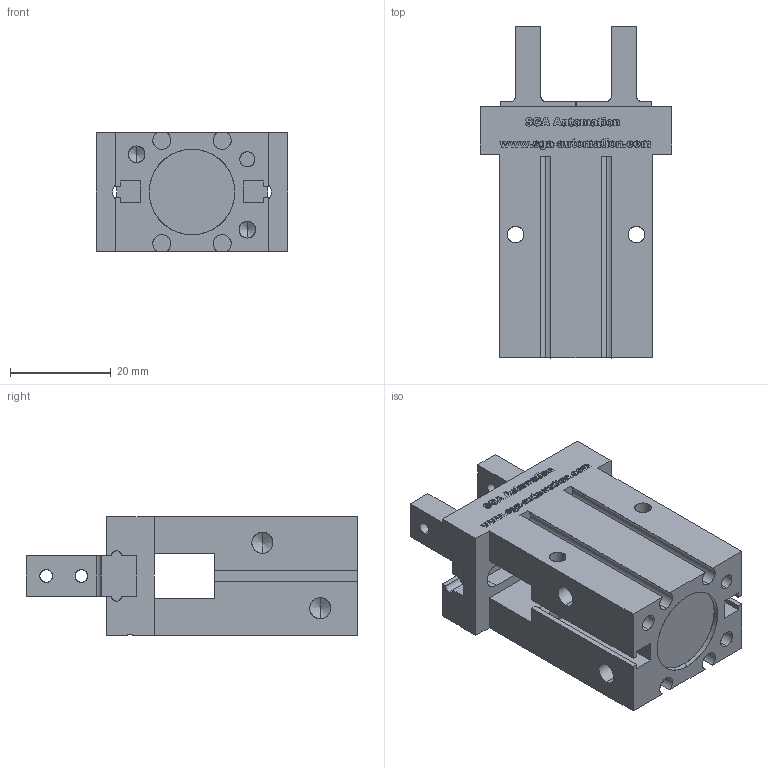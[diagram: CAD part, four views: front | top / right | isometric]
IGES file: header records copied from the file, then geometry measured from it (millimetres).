
Start section: SolidWorks IGES file using analytic representation for surfaces
Global section: file name: F:\Convertie\igs\GDZ 16 fermé.IGS; native system: SolidWorks 2014; preprocessor: SolidWorks 2014; author: adminlocal; date: 141222.160703; units: millimetre
Bounding box: 38 x 66 x 23.6 mm (x, y, z)
Surface area: 14052.6 mm2 (no closed solid volume)
Topology: 0 solids, 0 shells, 1235 faces, 13635 edges, 13623 vertices
Faces by surface type: bspline 1162, revolution 73
